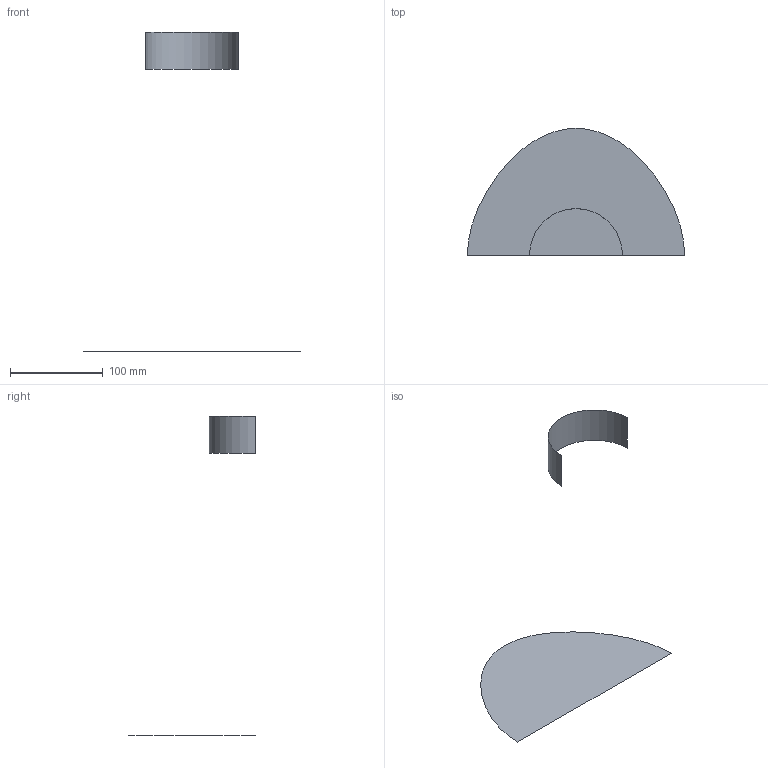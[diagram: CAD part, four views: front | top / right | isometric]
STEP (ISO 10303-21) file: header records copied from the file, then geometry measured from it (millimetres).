
FILE_DESCRIPTION(('CATIA V5 STEP Exchange'),'2;1');
FILE_NAME('C:\_Andres\UNIVERSIDAD\IQS\ASIGNATURAS\DAO\Controles\1617\c1\1original\Reyes_Carmenaty_Ej00-base_v27.stp','2017-02-06T16:27:51+00:00',('none'),('none'),'CATIA Version 5-6 Release 2014 SP1 HF18','CATIA V5 STEP AP203','none');
FILE_SCHEMA(('CONFIG_CONTROL_DESIGN'));
Length unit declared in the file: millimetre
Products named in the file (1): Reyes_Carmenaty_Ej00-base_v27
Bounding box: 234 x 137 x 344 mm (x, y, z)
Surface area: 30414.1 mm2 (no closed solid volume)
Topology: 0 solids, 2 shells, 2 faces, 16 edges, 26 vertices
Faces by surface type: cylinder 1, plane 1
Entity records: 230 total; most frequent: CARTESIAN_POINT 78, DIRECTION 16, COMPOSITE_CURVE_SEGMENT 9, TRIMMED_CURVE 9, AXIS2_PLACEMENT_3D 8, COMPOSITE_CURVE 7, ORIENTED_EDGE 7, EDGE_CURVE 7
